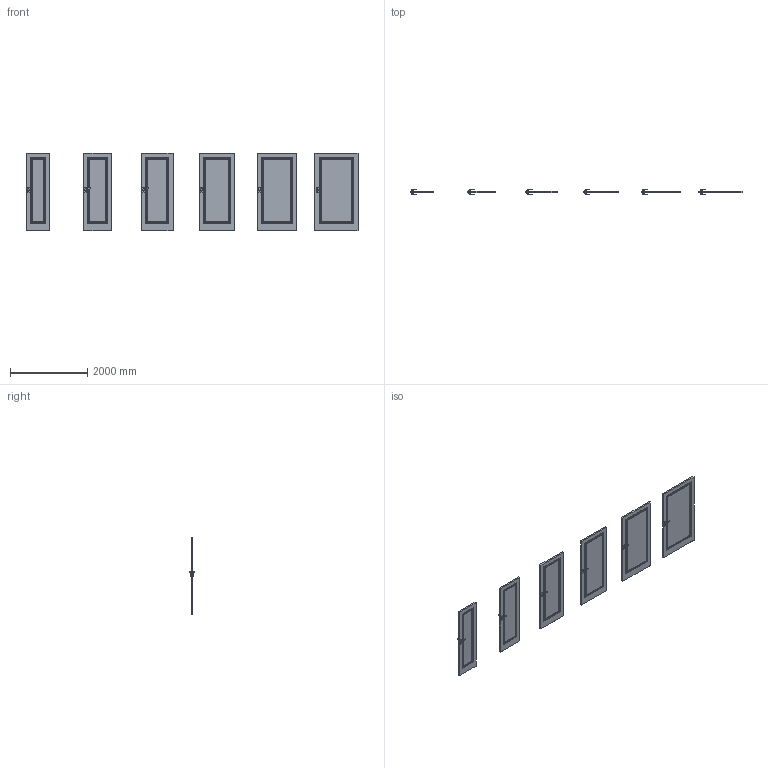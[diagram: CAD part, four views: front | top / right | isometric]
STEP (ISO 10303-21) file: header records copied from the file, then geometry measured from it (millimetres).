
FILE_DESCRIPTION(/* description */ (''),/* implementation_level */ '2;1');
FILE_NAME(/* name */ '049697_A_2-Skrzydło VECTOR U_ polska norma _PN__ bezprzylgowe..stp',/* time_stamp */ '2024-02-13T14:14:19+01:00',/* author */ (''),/* organization */ (''),/* preprocessor_version */ 'ST-DEVELOPER v16',/* originating_system */ 'SIEMENS PLM Software NX 11.0',/* authorisation */ '');
FILE_SCHEMA (('AUTOMOTIVE_DESIGN { 1 0 10303 214 3 1 1 1 }'));
Products named in the file (1): bkni35B888B4sbhe
Bounding box: 8618 x 153.27 x 2017 mm (x, y, z)
Volume: 412539506.4 mm3; surface area: 22751135.9 mm2
Topology: 30 solids, 30 shells, 2496 faces, 5628 edges, 3168 vertices
Faces by surface type: bspline 1152, plane 912, cylinder 264, sphere 168
Entity records: 73228 total; most frequent: CARTESIAN_POINT 25885, ORIENTED_EDGE 10920, DIRECTION 7934, EDGE_CURVE 5460, LINE 3420, VECTOR 3420, VERTEX_POINT 3168, EDGE_LOOP 2664
